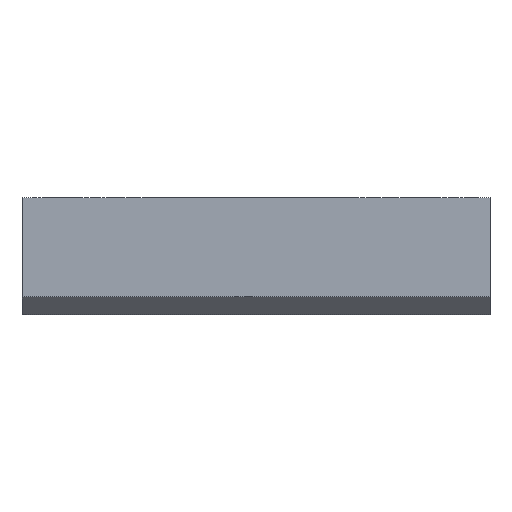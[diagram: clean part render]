
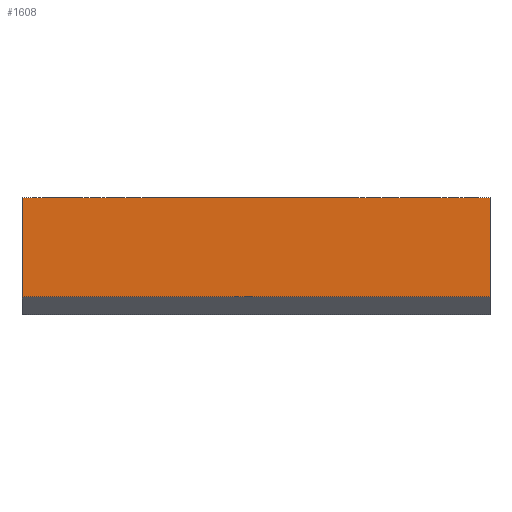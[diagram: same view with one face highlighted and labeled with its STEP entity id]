
A CAD part, front view. The second image highlights one B-rep face of the part: STEP entity #1608.
In plain terms, the highlighted planar face has unit normal (0, -1, 0).
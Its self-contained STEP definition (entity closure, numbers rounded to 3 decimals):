
#150 = CARTESIAN_POINT ( 'NONE',  ( 0., 0., 20. ) ) ;
#334 = LINE ( 'NONE', #4008, #3667 ) ;
#414 = CARTESIAN_POINT ( 'NONE',  ( 40., 0., 3. ) ) ;
#652 = DIRECTION ( 'NONE',  ( 0., 0., -1. ) ) ;
#675 = DIRECTION ( 'NONE',  ( 0., 0., 1. ) ) ;
#687 = EDGE_CURVE ( 'NONE', #1868, #2303, #334, .T. ) ;
#832 = DIRECTION ( 'NONE',  ( 0., -1., 0. ) ) ;
#850 = CARTESIAN_POINT ( 'NONE',  ( 0., 0., 0. ) ) ;
#960 = VECTOR ( 'NONE', #2928, 1000. ) ;
#973 = ORIENTED_EDGE ( 'NONE', *, *, #3225, .F. ) ;
#982 = ORIENTED_EDGE ( 'NONE', *, *, #2577, .T. ) ;
#1013 = VECTOR ( 'NONE', #675, 1000. ) ;
#1270 = CARTESIAN_POINT ( 'NONE',  ( 0., 0., 3. ) ) ;
#1577 = FACE_OUTER_BOUND ( 'NONE', #2633, .T. ) ;
#1608 = ADVANCED_FACE ( 'NONE', ( #1577 ), #2152, .T. ) ;
#1680 = LINE ( 'NONE', #3463, #4095 ) ;
#1844 = LINE ( 'NONE', #3472, #1013 ) ;
#1868 = VERTEX_POINT ( 'NONE', #2698 ) ;
#1995 = VERTEX_POINT ( 'NONE', #1270 ) ;
#2152 = PLANE ( 'NONE',  #2720 ) ;
#2221 = EDGE_CURVE ( 'NONE', #1995, #3734, #1844, .T. ) ;
#2303 = VERTEX_POINT ( 'NONE', #3523 ) ;
#2577 = EDGE_CURVE ( 'NONE', #1995, #1868, #3464, .T. ) ;
#2619 = ORIENTED_EDGE ( 'NONE', *, *, #687, .T. ) ;
#2633 = EDGE_LOOP ( 'NONE', ( #2619, #973, #3194, #982 ) ) ;
#2698 = CARTESIAN_POINT ( 'NONE',  ( 80., 0., 3. ) ) ;
#2720 = AXIS2_PLACEMENT_3D ( 'NONE', #850, #832, #652 ) ;
#2928 = DIRECTION ( 'NONE',  ( 1., 0., 0. ) ) ;
#3151 = DIRECTION ( 'NONE',  ( 1., 0., 0. ) ) ;
#3194 = ORIENTED_EDGE ( 'NONE', *, *, #2221, .F. ) ;
#3225 = EDGE_CURVE ( 'NONE', #3734, #2303, #1680, .T. ) ;
#3463 = CARTESIAN_POINT ( 'NONE',  ( 40., 0., 20. ) ) ;
#3464 = LINE ( 'NONE', #414, #960 ) ;
#3472 = CARTESIAN_POINT ( 'NONE',  ( 0., 0., 11.5 ) ) ;
#3523 = CARTESIAN_POINT ( 'NONE',  ( 80., 0., 20. ) ) ;
#3667 = VECTOR ( 'NONE', #3696, 1000. ) ;
#3696 = DIRECTION ( 'NONE',  ( 0., 0., 1. ) ) ;
#3734 = VERTEX_POINT ( 'NONE', #150 ) ;
#4008 = CARTESIAN_POINT ( 'NONE',  ( 80., 0., 11.5 ) ) ;
#4095 = VECTOR ( 'NONE', #3151, 1000. ) ;
